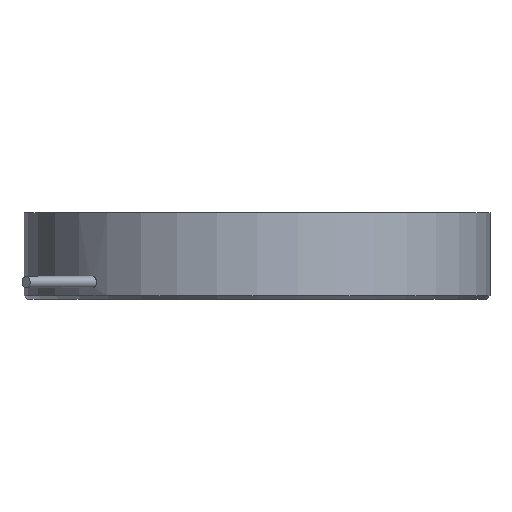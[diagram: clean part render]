
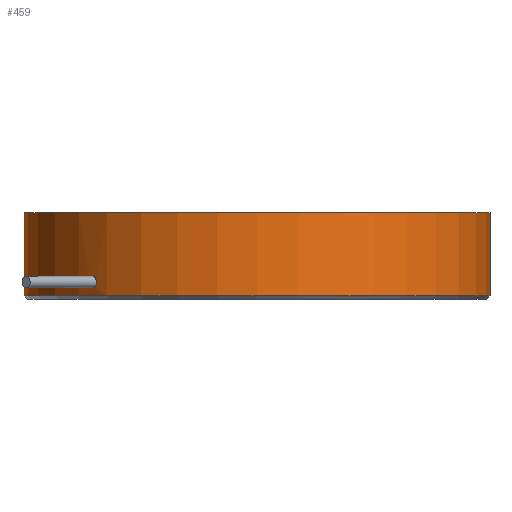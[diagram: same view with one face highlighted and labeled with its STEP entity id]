
A CAD part, left-side view. The second image highlights one B-rep face of the part: STEP entity #459.
In plain terms, the highlighted cylindrical face has radius 70 mm (diameter 140 mm), a partial arc.
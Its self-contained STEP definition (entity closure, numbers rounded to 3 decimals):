
#1=CARTESIAN_POINT('',(-49.497,49.497,-32.908));
#2=CARTESIAN_POINT('',(-49.371,49.624,-32.908));
#3=CARTESIAN_POINT('',(-49.115,49.878,-32.853));
#4=CARTESIAN_POINT('',(-48.759,50.226,-32.604));
#5=CARTESIAN_POINT('',(-48.476,50.499,-32.215));
#6=CARTESIAN_POINT('',(-48.29,50.676,-31.723));
#7=CARTESIAN_POINT('',(-48.223,50.74,-31.169));
#8=CARTESIAN_POINT('',(-48.284,50.682,-30.62));
#9=CARTESIAN_POINT('',(-48.467,50.507,-30.117));
#10=CARTESIAN_POINT('',(-48.749,50.236,-29.722));
#11=CARTESIAN_POINT('',(-49.112,49.881,-29.463));
#12=CARTESIAN_POINT('',(-49.37,49.625,-29.408));
#13=CARTESIAN_POINT('',(-49.497,49.497,-29.408));
#19=DIRECTION('',(0.,0.,1.));
#20=VECTOR('',#19,25.);
#21=CARTESIAN_POINT('',(0.,70.,-35.318));
#22=LINE('',#21,#20);
#23=DIRECTION('',(0.,0.,-1.));
#24=VECTOR('',#23,25.);
#25=CARTESIAN_POINT('',(0.,-70.,-10.318));
#26=LINE('',#25,#24);
#32=CARTESIAN_POINT('',(0.,0.,-10.318));
#33=DIRECTION('',(0.,0.,-1.));
#34=DIRECTION('',(0.,-1.,0.));
#35=AXIS2_PLACEMENT_3D('',#32,#33,#34);
#191=CARTESIAN_POINT('',(0.,0.,-35.318));
#192=DIRECTION('',(0.,0.,1.));
#193=DIRECTION('',(0.,1.,0.));
#194=AXIS2_PLACEMENT_3D('',#191,#192,#193);
#313=CARTESIAN_POINT('',(-49.497,49.497,-29.408));
#314=CARTESIAN_POINT('',(-49.624,49.371,-29.408));
#315=CARTESIAN_POINT('',(-49.878,49.115,-29.463));
#316=CARTESIAN_POINT('',(-50.226,48.759,-29.713));
#317=CARTESIAN_POINT('',(-50.499,48.476,-30.101));
#318=CARTESIAN_POINT('',(-50.676,48.29,-30.593));
#319=CARTESIAN_POINT('',(-50.74,48.223,-31.147));
#320=CARTESIAN_POINT('',(-50.682,48.284,-31.696));
#321=CARTESIAN_POINT('',(-50.507,48.467,-32.199));
#322=CARTESIAN_POINT('',(-50.236,48.749,-32.594));
#323=CARTESIAN_POINT('',(-49.881,49.112,-32.853));
#324=CARTESIAN_POINT('',(-49.625,49.37,-32.908));
#325=CARTESIAN_POINT('',(-49.497,49.497,-32.908));
#369=CARTESIAN_POINT('',(0.,-70.,-35.318));
#370=CARTESIAN_POINT('',(0.,70.,-35.318));
#371=VERTEX_POINT('',#369);
#372=VERTEX_POINT('',#370);
#373=CARTESIAN_POINT('',(0.,-70.,-10.318));
#374=VERTEX_POINT('',#373);
#375=CARTESIAN_POINT('',(0.,70.,-10.318));
#376=VERTEX_POINT('',#375);
#377=VERTEX_POINT('',#313);
#378=VERTEX_POINT('',#325);
#439=CARTESIAN_POINT('',(0.,0.,1.816));
#440=DIRECTION('',(0.,0.,-1.));
#441=DIRECTION('',(0.,-1.,0.));
#442=AXIS2_PLACEMENT_3D('',#439,#440,#441);
#443=CYLINDRICAL_SURFACE('',#442,70.);
#445=ORIENTED_EDGE('',*,*,#444,.T.);
#447=ORIENTED_EDGE('',*,*,#446,.F.);
#449=ORIENTED_EDGE('',*,*,#448,.T.);
#451=ORIENTED_EDGE('',*,*,#450,.F.);
#452=EDGE_LOOP('',(#445,#447,#449,#451));
#453=FACE_OUTER_BOUND('',#452,.F.);
#455=ORIENTED_EDGE('',*,*,#454,.F.);
#456=ORIENTED_EDGE('',*,*,#428,.F.);
#457=EDGE_LOOP('',(#455,#456));
#458=FACE_BOUND('',#457,.F.);
#14=B_SPLINE_CURVE_WITH_KNOTS('',3,(#1,#2,#3,#4,#5,#6,#7,#8,#9,#10,#11,#12,#13),
.UNSPECIFIED.,.F.,.F.,(4,1,1,1,1,1,1,1,1,1,4),(0.,0.1,0.2,0.3,0.4,
0.5,0.6,0.7,0.8,0.9,1.),.UNSPECIFIED.);
#36=CIRCLE('',#35,70.);
#195=CIRCLE('',#194,70.);
#326=B_SPLINE_CURVE_WITH_KNOTS('',3,(#313,#314,#315,#316,#317,#318,#319,#320,
#321,#322,#323,#324,#325),.UNSPECIFIED.,.F.,.F.,(4,1,1,1,1,1,1,1,1,1,4),(0.,
0.1,0.2,0.3,0.4,0.5,0.6,0.7,0.8,0.9,1.),.UNSPECIFIED.);
#428=EDGE_CURVE('',#378,#377,#14,.T.);
#444=EDGE_CURVE('',#372,#376,#22,.T.);
#446=EDGE_CURVE('',#374,#376,#36,.T.);
#448=EDGE_CURVE('',#374,#371,#26,.T.);
#450=EDGE_CURVE('',#372,#371,#195,.T.);
#454=EDGE_CURVE('',#377,#378,#326,.T.);
#459=ADVANCED_FACE('',(#453,#458),#443,.T.);
